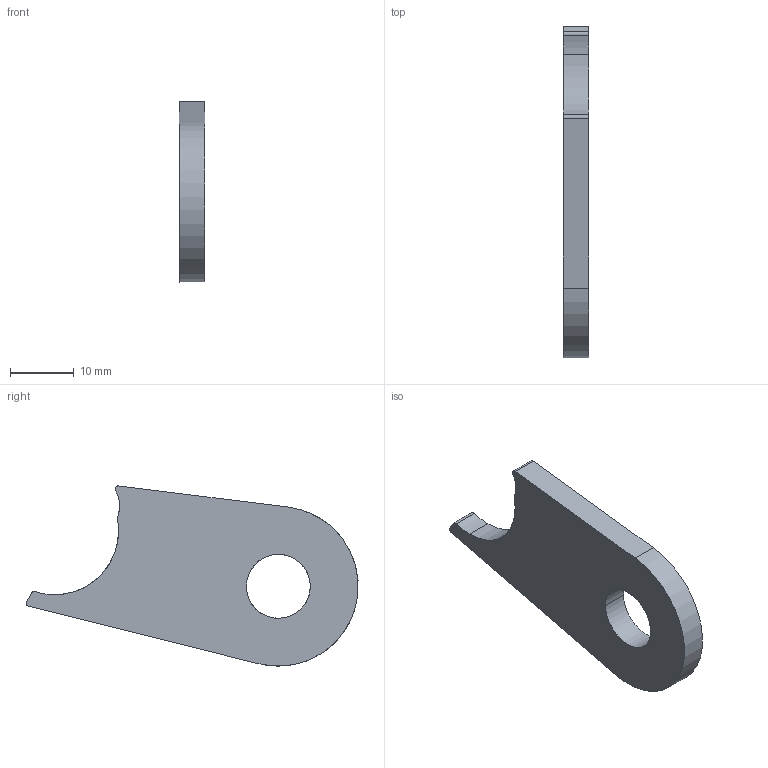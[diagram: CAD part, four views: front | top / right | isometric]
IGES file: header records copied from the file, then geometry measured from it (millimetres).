
Start section: START RECORD GO HERE.
Global section: file name: 20M_DT_URR.igs; native system: IBM CATIA IGES - CATIA Version 5 Release 19 ; preprocessor: CATIA Version 5 Release 19 ; author: alexb; organization: LAPTOP-PR6NE7IP; date: 20191217.151228; units: millimetre
Bounding box: 4 x 51.98 x 28.23 mm (x, y, z)
Surface area: 2338.8 mm2 (no closed solid volume)
Topology: 0 solids, 0 shells, 17 faces, 90 edges, 90 vertices
Faces by surface type: revolution 10, plane 5, extrusion 2
